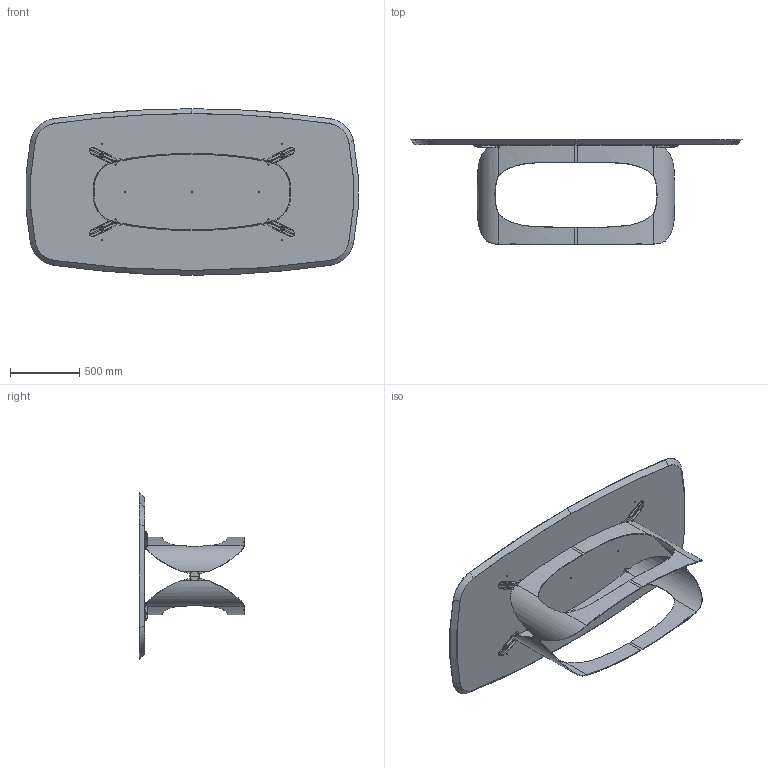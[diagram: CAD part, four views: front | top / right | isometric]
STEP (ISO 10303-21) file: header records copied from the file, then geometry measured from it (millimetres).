
FILE_DESCRIPTION (( 'STEP AP203' ), '1' );
FILE_NAME ('PO43W.STEP', '2024-08-06T14:02:38', ( '' ), ( '' ), 'SwSTEP 2.0', 'SolidWorks 2022', '' );
FILE_SCHEMA (( 'CONFIG_CONTROL_DESIGN' ));
Length unit declared in the file: millimetre
Products named in the file (15): W4XCMXX-00-Piani Sagomati legno_2400 x 1200; POL000000-00-POLIFEMO BASE X PIANI 200-240_POL000000-00-POLIFEMO BASE L160; rondella M8_8X32; Vite Legno 4xXX testa piana_S4.5x25; POL000000_03B-00-POLIFEMO FREGIO; PVC profilo Polifemo 9x8; POL000000_02-02-CILINDRO DI FISSAGGIO Ø12X15 M8; POL000000_03-01-POLIFEMO FREGIO COMPLETO; POLPIA000V01-00-POLIFEMO PIASTRA X FISSAGGIO TOP LEG-MAR; GRANO M8X35_barra; POL000000_03A-01-POLIFEMO FREGIO; M8xXXmm_hex_M8X16mm; POL000000_01-01-MEZZA BASE POLIFEMO X PIANI 200-240_POL000000_03-00-MEZZA BASE PLIFEMO L160; nut_M8_M8; PO43W
Assembly tree (41 placements, depth 3):
  PO43W
    POL000000-00-POLIFEMO BASE X PIANI 200-240_POL000000-00-POLIFEMO BASE L160
      POL000000_01-01-MEZZA BASE POLIFEMO X PIANI 200-240_POL000000_03-00-MEZZA BASE PLIFEMO L160  x2
      POL000000_02-02-CILINDRO DI FISSAGGIO Ø12X15 M8  x4
    POL000000_03-01-POLIFEMO FREGIO COMPLETO  x2
      POL000000_03A-01-POLIFEMO FREGIO
      POL000000_03B-00-POLIFEMO FREGIO
    PVC profilo Polifemo 9x8  x4
    POLPIA000V01-00-POLIFEMO PIASTRA X FISSAGGIO TOP LEG-MAR  x4
    M8xXXmm_hex_M8X16mm  x4
    GRANO M8X35_barra  x4
    nut_M8_M8  x4
    rondella M8_8X32  x4
    Vite Legno 4xXX testa piana_S4.5x25  x4
    W4XCMXX-00-Piani Sagomati legno_2400 x 1200
Bounding box: 2391.9 x 759.97 x 1200 mm (x, y, z)
Volume: 104393314.2 mm3; surface area: 8082663.8 mm2
Topology: 41 solids, 41 shells, 1369 faces, 3334 edges, 1966 vertices
Faces by surface type: cylinder 453, plane 404, torus 189, cone 131, bspline 128, sphere 64
Entity records: 27192 total; most frequent: CARTESIAN_POINT 14551, DIRECTION 2204, ORIENTED_EDGE 2120, EDGE_CURVE 1060, AXIS2_PLACEMENT_3D 897, VERTEX_POINT 642, EDGE_LOOP 490, FACE_OUTER_BOUND 459
